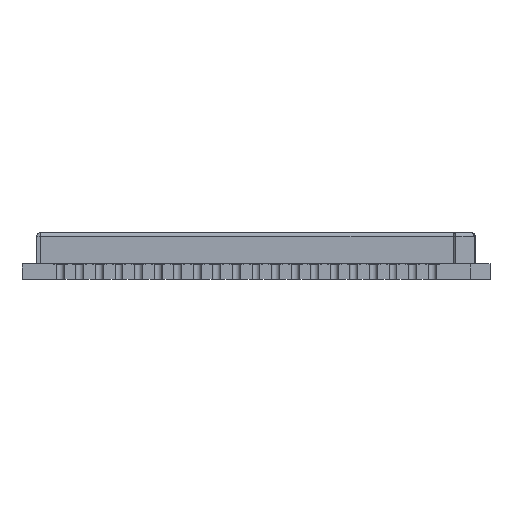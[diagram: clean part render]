
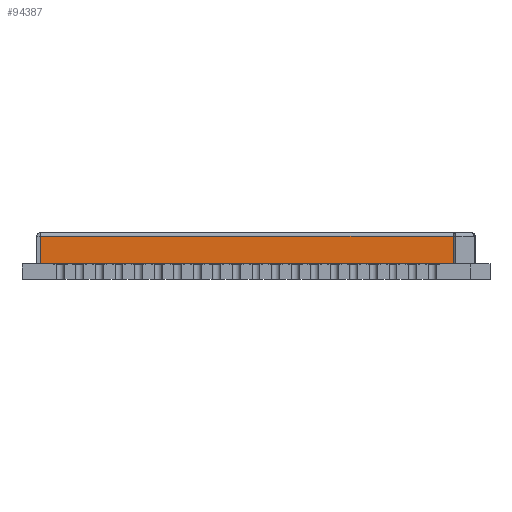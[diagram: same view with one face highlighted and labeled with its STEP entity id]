
A CAD part, left-side view. The second image highlights one B-rep face of the part: STEP entity #94387.
In plain terms, the highlighted planar face has unit normal (-1, 0, 0).
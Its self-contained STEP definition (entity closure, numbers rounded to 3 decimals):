
#47956=DIRECTION('',(0.,-1.,0.));
#47957=VECTOR('',#47956,1.4);
#47958=CARTESIAN_POINT('',(-10.7,1.4,10.067));
#47959=LINE('',#47958,#47957);
#47963=DIRECTION('',(0.,1.,0.));
#47964=VECTOR('',#47963,1.4);
#47965=CARTESIAN_POINT('',(-10.7,0.,-11.));
#47966=LINE('',#47965,#47964);
#47999=DIRECTION('',(0.,0.,1.));
#48000=VECTOR('',#47999,21.067);
#48001=CARTESIAN_POINT('',(-10.7,1.4,-11.));
#48002=LINE('',#48001,#48000);
#48370=DIRECTION('',(0.,0.,1.));
#48371=VECTOR('',#48370,21.067);
#48372=CARTESIAN_POINT('',(-10.7,0.,-11.));
#48373=LINE('',#48372,#48371);
#80263=CARTESIAN_POINT('',(-10.7,1.4,10.067));
#80264=CARTESIAN_POINT('',(-10.7,0.,10.067));
#80265=VERTEX_POINT('',#80263);
#80266=VERTEX_POINT('',#80264);
#80287=CARTESIAN_POINT('',(-10.7,0.,-11.));
#80288=CARTESIAN_POINT('',(-10.7,1.4,-11.));
#80289=VERTEX_POINT('',#80287);
#80290=VERTEX_POINT('',#80288);
#94373=CARTESIAN_POINT('',(-10.7,0.,-11.2));
#94374=DIRECTION('',(-1.,0.,0.));
#94375=DIRECTION('',(0.,0.,1.));
#94376=AXIS2_PLACEMENT_3D('',#94373,#94374,#94375);
#94377=PLANE('',#94376);
#94379=ORIENTED_EDGE('',*,*,#94378,.T.);
#94381=ORIENTED_EDGE('',*,*,#94380,.F.);
#94382=ORIENTED_EDGE('',*,*,#94363,.T.);
#94384=ORIENTED_EDGE('',*,*,#94383,.T.);
#94385=EDGE_LOOP('',(#94379,#94381,#94382,#94384));
#94386=FACE_OUTER_BOUND('',#94385,.F.);
#94387=ADVANCED_FACE('',(#94386),#94377,.T.);
#94363=EDGE_CURVE('',#80289,#80290,#47966,.T.);
#94378=EDGE_CURVE('',#80265,#80266,#47959,.T.);
#94380=EDGE_CURVE('',#80289,#80266,#48373,.T.);
#94383=EDGE_CURVE('',#80290,#80265,#48002,.T.);
